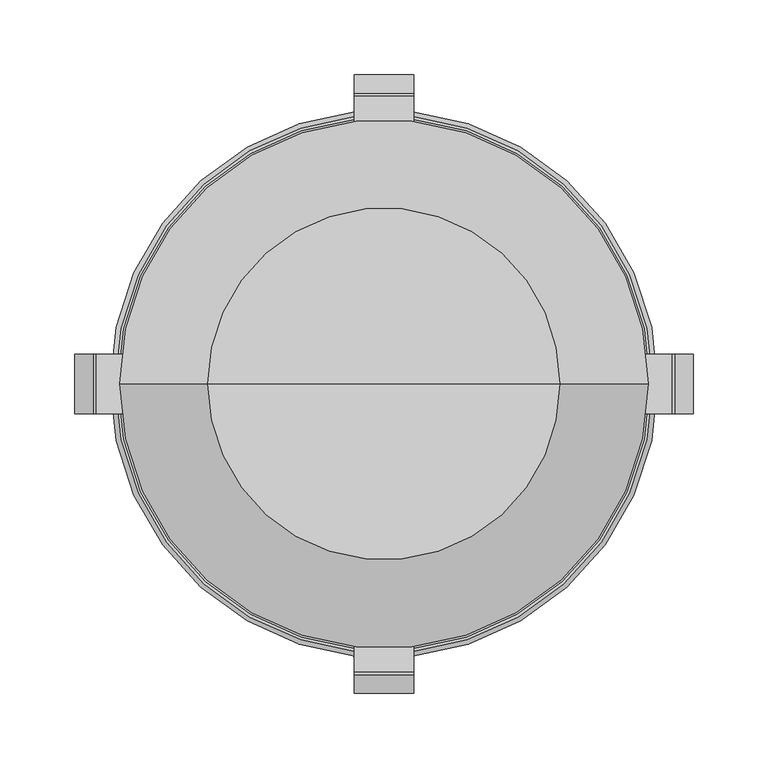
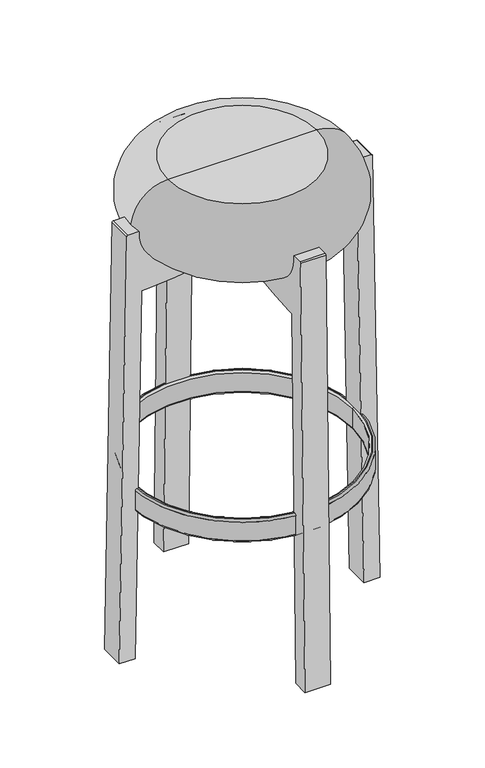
"""IFC4 building model written with IfcOpenShell, lengths in millimetres: furniture geometry, Fredericia - Pioneer Bar Stool High - 6831 : Fredericia - Pioneer Bar Stool High - 6831."""

from ifc_helpers import new_model, si_unit, point, frame, frame_2d, origin, origin_with_axes, place, context, project, spatial, polyline, circle_curve, ellipse_curve, trimmed, segment, composite_curve, outline, extrude, source, transform, mapped, element, save
from ifc_brep_helpers import plane_surface, cylinder_surface, revolved_surface, advanced_brep


def furniture_f48b6f14(model_context):
    return source(origin(), model_context, "Body", "SolidModel", [
        advanced_brep(
        [(175.4348457, 0.0, 249.9868025), (-175.4348457, 0.0, 249.9868025), (-175.4348457, 0.0, 280.9868025), (175.4348457, 0.0, 280.9868025), (178.4348457, 0.0, 246.9868025), (-178.4348457, 0.0, 246.9868025), (183.4908155, 0.0, 249.9362251), (-183.4908155, 0.0, 249.9362251), (-180.5413929, 0.0, 246.9868025), (180.5413929, 0.0, 246.9868025), (183.4908155, 0.0, 280.9925155), (-183.4908155, 0.0, 280.9925155), (180.4965285, 0.0, 283.9868025), (-180.4965285, 0.0, 283.9868025), (-178.4348457, 0.0, 283.9868025), (178.4348457, 0.0, 283.9868025)],
        [
            (0, 1, circle_curve(frame((0.0, 0.0, 249.9868025), z_axis=(0.0, 0.0, -1.0), x_axis=(-1.0, 0.0, 0.0)), 175.4348457)),
            (1, 2),
            (2, 3, circle_curve(frame((0.0, 0.0, 280.9868025), z_axis=(0.0, 0.0, 1.0), x_axis=(-1.0, 0.0, 0.0)), 175.4348457)),
            (3, 0),
            (4, 5, circle_curve(frame((0.0, 0.0, 246.9868025), z_axis=(0.0, 0.0, -1.0), x_axis=(-1.0, 0.0, 0.0)), 178.4348457)),
            (5, 1, circle_curve(frame((-178.4348457, 0.0, 249.9868025), z_axis=(0.0, -1.0, 0.0), x_axis=(1.0, 0.0, 0.0)), 3.0)),
            (0, 4, circle_curve(frame((178.4348457, 0.0, 249.9868025), z_axis=(0.0, -1.0, 0.0), x_axis=(-1.0, 0.0, 0.0)), 3.0)),
            (6, 7, circle_curve(frame((0.0, 0.0, 249.9362251), z_axis=(0.0, 0.0, -1.0), x_axis=(-1.0, 0.0, 0.0)), 183.4908155)),
            (7, 8, circle_curve(frame((-180.5413929, 0.0, 249.9362251), z_axis=(0.0, -1.0, 0.0), x_axis=(1.0, 0.0, 0.0)), 2.9494226)),
            (8, 9, circle_curve(frame((0.0, 0.0, 246.9868025), z_axis=(0.0, 0.0, 1.0), x_axis=(-1.0, 0.0, 0.0)), 180.5413929)),
            (9, 6, circle_curve(frame((180.5413929, 0.0, 249.9362251), z_axis=(0.0, -1.0, 0.0), x_axis=(-1.0, 0.0, 0.0)), 2.9494226)),
            (10, 11, circle_curve(frame((0.0, 0.0, 280.9925155), z_axis=(0.0, 0.0, -1.0), x_axis=(-1.0, 0.0, 0.0)), 183.4908155)),
            (11, 7),
            (6, 10),
            (12, 13, circle_curve(frame((0.0, 0.0, 283.9868025), z_axis=(0.0, 0.0, -1.0), x_axis=(-1.0, 0.0, 0.0)), 180.4965285)),
            (13, 11, circle_curve(frame((-180.4965285, 0.0, 280.9925155), z_axis=(0.0, -1.0, 0.0), x_axis=(1.0, 0.0, 0.0)), 2.994287)),
            (10, 12, circle_curve(frame((180.4965285, 0.0, 280.9925155), z_axis=(0.0, -1.0, 0.0), x_axis=(-1.0, 0.0, 0.0)), 2.994287)),
            (2, 14, circle_curve(frame((-178.4348457, 0.0, 280.9868025), z_axis=(0.0, -1.0, 0.0), x_axis=(1.0, 0.0, 0.0)), 3.0)),
            (14, 15, circle_curve(frame((0.0, 0.0, 283.9868025), z_axis=(0.0, 0.0, 1.0), x_axis=(-1.0, 0.0, 0.0)), 178.4348457)),
            (15, 3, circle_curve(frame((178.4348457, 0.0, 280.9868025), z_axis=(0.0, -1.0, 0.0), x_axis=(-1.0, 0.0, 0.0)), 3.0)),
            (1, 0, circle_curve(frame((0.0, 0.0, 249.9868025), z_axis=(0.0, 0.0, -1.0), x_axis=(1.0, 0.0, 0.0)), 175.4348457)),
            (3, 2, circle_curve(frame((0.0, 0.0, 280.9868025), z_axis=(0.0, 0.0, 1.0), x_axis=(1.0, 0.0, 0.0)), 175.4348457)),
            (5, 4, circle_curve(frame((0.0, 0.0, 246.9868025), z_axis=(0.0, 0.0, -1.0), x_axis=(1.0, 0.0, 0.0)), 178.4348457)),
            (8, 9, circle_curve(frame((0.0, 0.0, 246.9868025), z_axis=(0.0, 0.0, -1.0), x_axis=(1.0, 0.0, 0.0)), 180.5413929)),
            (7, 6, circle_curve(frame((0.0, 0.0, 249.9362251), z_axis=(0.0, 0.0, -1.0), x_axis=(1.0, 0.0, 0.0)), 183.4908155)),
            (11, 10, circle_curve(frame((0.0, 0.0, 280.9925155), z_axis=(0.0, 0.0, -1.0), x_axis=(1.0, 0.0, 0.0)), 183.4908155)),
            (13, 12, circle_curve(frame((0.0, 0.0, 283.9868025), z_axis=(0.0, 0.0, -1.0), x_axis=(1.0, 0.0, 0.0)), 180.4965285)),
            (14, 15, circle_curve(frame((0.0, 0.0, 283.9868025), z_axis=(0.0, 0.0, -1.0), x_axis=(1.0, 0.0, 0.0)), 178.4348457)),
        ],
        [
            revolved_surface(polyline([(-175.4348457, 0.0, 280.9868025), (-175.4348457, 0.0, 249.9868025)]), (0.0, 0.0, 0.0), (0.0, 0.0, 1.0)),
            revolved_surface(trimmed(ellipse_curve(frame((-178.4348457, 0.0, 249.9868025), z_axis=(0.0, 1.0, 0.0), x_axis=(1.0, 0.0, 0.0)), 3.0, 3.0), [point((-175.4348457, 0.0, 249.9868025))], [point((-178.4348457, 0.0, 246.9868025))], True, "CARTESIAN"), (0.0, 0.0, 0.0), (0.0, 0.0, 1.0)),
            revolved_surface(trimmed(ellipse_curve(frame((-180.5413929, 0.0, 249.9362251), z_axis=(0.0, 1.0, 0.0), x_axis=(1.0, 0.0, 0.0)), 2.9494226, 2.9494226), [point((-180.5413929, 0.0, 246.9868025))], [point((-183.4908155, 0.0, 249.9362251))], True, "CARTESIAN"), (0.0, 0.0, 0.0), (0.0, 0.0, 1.0)),
            cylinder_surface(frame((0.0, 0.0, 0.0), z_axis=(0.0, 0.0, 1.0), x_axis=(-1.0, 0.0, 0.0)), 183.4908155),
            revolved_surface(trimmed(ellipse_curve(frame((-180.4965285, 0.0, 280.9925155), z_axis=(0.0, 1.0, 0.0), x_axis=(1.0, 0.0, 0.0)), 2.994287, 2.994287), [point((-183.4908155, 0.0, 280.9925155))], [point((-180.4965285, 0.0, 283.9868025))], True, "CARTESIAN"), (0.0, 0.0, 0.0), (0.0, 0.0, 1.0)),
            revolved_surface(trimmed(ellipse_curve(frame((-178.4348457, 0.0, 280.9868025), z_axis=(0.0, 1.0, 0.0), x_axis=(1.0, 0.0, 0.0)), 3.0, 3.0), [point((-178.4348457, 0.0, 283.9868025))], [point((-175.4348457, 0.0, 280.9868025))], True, "CARTESIAN"), (0.0, 0.0, 0.0), (0.0, 0.0, 1.0)),
            revolved_surface(polyline([(175.4348457, 0.0, 280.9868025), (175.4348457, 0.0, 249.9868025)]), (0.0, 0.0, 0.0), (0.0, 0.0, 1.0)),
            revolved_surface(trimmed(ellipse_curve(frame((178.4348457, 0.0, 249.9868025), z_axis=(0.0, -1.0, 0.0), x_axis=(-1.0, 0.0, 0.0)), 3.0, 3.0), [point((175.4348457, 0.0, 249.9868025))], [point((178.4348457, 0.0, 246.9868025))], True, "CARTESIAN"), (0.0, 0.0, 0.0), (0.0, 0.0, 1.0)),
            plane_surface(frame((0.0, 0.0, 246.9868025), z_axis=(0.0, 0.0, -1.0), x_axis=(1.0, 0.0, 0.0))),
            revolved_surface(trimmed(ellipse_curve(frame((180.5413929, 0.0, 249.9362251), z_axis=(0.0, -1.0, 0.0), x_axis=(-1.0, 0.0, 0.0)), 2.9494226, 2.9494226), [point((180.5413929, 0.0, 246.9868025))], [point((183.4908155, 0.0, 249.9362251))], True, "CARTESIAN"), (0.0, 0.0, 0.0), (0.0, 0.0, 1.0)),
            cylinder_surface(origin_with_axes(), 183.4908155),
            revolved_surface(trimmed(ellipse_curve(frame((180.4965285, 0.0, 280.9925155), z_axis=(0.0, -1.0, 0.0), x_axis=(-1.0, 0.0, 0.0)), 2.994287, 2.994287), [point((183.4908155, 0.0, 280.9925155))], [point((180.4965285, 0.0, 283.9868025))], True, "CARTESIAN"), (0.0, 0.0, 0.0), (0.0, 0.0, 1.0)),
            plane_surface(frame((0.0, 0.0, 283.9868025), z_axis=(0.0, 0.0, 1.0), x_axis=(1.0, 0.0, 0.0))),
            revolved_surface(trimmed(ellipse_curve(frame((178.4348457, 0.0, 280.9868025), z_axis=(0.0, -1.0, 0.0), x_axis=(-1.0, 0.0, 0.0)), 3.0, 3.0), [point((178.4348457, 0.0, 283.9868025))], [point((175.4348457, 0.0, 280.9868025))], True, "CARTESIAN"), (0.0, 0.0, 0.0), (0.0, 0.0, 1.0)),
        ],
        [
            (0, [[1, 2, 3, 4]]),
            (1, [[5, 6, -1, 7]]),
            (2, [[8, 9, 10, 11]]),
            (3, [[12, 13, -8, 14]]),
            (4, [[15, 16, -12, 17]]),
            (5, [[-3, 18, 19, 20]]),
            (6, [[21, -4, 22, -2]]),
            (7, [[23, -7, -21, -6]]),
            (8, [[24, -10], [-23, -5]]),
            (9, [[25, -11, -24, -9]]),
            (10, [[26, -14, -25, -13]]),
            (11, [[27, -17, -26, -16]]),
            (12, [[-27, -15], [28, -19]]),
            (13, [[-22, -20, -28, -18]]),
        ],
    ),
        advanced_brep(
        [(0.0, 0.0, 770.0), (117.9870051, 0.0, 770.0), (-117.9870051, 0.0, 770.0), (-117.9870051, 0.0, 650.9896967), (117.9870051, 0.0, 650.9896967), (0.0, 0.0, 650.9896967)],
        [
            (0, 1),
            (1, 2, circle_curve(frame((0.0, 0.0, 770.0), z_axis=(0.0, 0.0, 1.0), x_axis=(1.0, 0.0, 0.0)), 117.9870051)),
            (2, 0),
            (2, 1, circle_curve(frame((0.0, 0.0, 770.0), z_axis=(0.0, 0.0, 1.0), x_axis=(1.0, 0.0, 0.0)), 117.9870051)),
            (3, 4, circle_curve(frame((0.0, 0.0, 650.9896967), z_axis=(0.0, 0.0, -1.0), x_axis=(1.0, 0.0, 0.0)), 117.9870051)),
            (4, 5),
            (5, 3),
            (4, 3, circle_curve(frame((0.0, 0.0, 650.9896967), z_axis=(0.0, 0.0, -1.0), x_axis=(1.0, 0.0, 0.0)), 117.9870051)),
            (1, 4, circle_curve(frame((117.9870051, 0.0, 710.4948483), z_axis=(0.0, 1.0, 0.0), x_axis=(1.0, 0.0, 0.0)), 59.5051517)),
            (3, 2, circle_curve(frame((-117.9870051, 0.0, 710.4948483), z_axis=(0.0, 1.0, 0.0), x_axis=(-1.0, 0.0, 0.0)), 59.5051517)),
        ],
        [
            plane_surface(frame((0.0, 0.0, 770.0), z_axis=(0.0, 0.0, 1.0), x_axis=(1.0, 0.0, 0.0))),
            plane_surface(frame((0.0, 0.0, 650.9896967), z_axis=(0.0, 0.0, -1.0), x_axis=(1.0, 0.0, 0.0))),
            revolved_surface(trimmed(ellipse_curve(frame((117.9870051, 0.0, 710.4948483), z_axis=(0.0, -1.0, 0.0), x_axis=(1.0, 0.0, 0.0)), 59.5051517, 59.5051517), [point((117.9870051, 0.0, 650.9896967))], [point((117.9870051, 0.0, 770.0))], True, "CARTESIAN"), (0.0, 0.0, 809.4896967), (0.0, 0.0, 1.0)),
        ],
        [
            (0, [[1, 2, 3]]),
            (0, [[-3, 4, -1]]),
            (1, [[5, 6, 7]]),
            (1, [[8, -7, -6]]),
            (2, [[-2, 9, -5, 10]]),
            (2, [[-4, -10, -8, -9]]),
        ],
    ),
        extrude(outline(composite_curve([segment(polyline([(714.4896967, 193.0289245), (714.4896967, 174.9912725), (713.5758804, 175.0072232)]), True, "CONTINUOUS"), segment(trimmed(circle_curve(frame_2d((712.553796, 116.4520435)), 58.5640993), [point((713.5758804, 175.0072232))], [point((653.9896967, 116.4520435))], True, "CARTESIAN"), True, "CONTINUOUS"), segment(polyline([(653.9896967, 116.4520435), (653.9896967, 20.0), (640.9896967, 20.0), (640.9896967, 0.0), (640.9896967, -20.0), (653.9896967, -20.0), (653.9896967, -116.4520435)]), True, "CONTINUOUS"), segment(trimmed(circle_curve(frame_2d((712.553796, -116.4520435)), 58.5640993), [point((653.9896967, -116.4520435))], [point((713.5758804, -175.0072232))], True, "CARTESIAN"), True, "CONTINUOUS"), segment(polyline([(713.5758804, -175.0072232), (714.4896967, -174.9912725), (714.4896967, -193.0289245)]), True, "CONTINUOUS"), segment(trimmed(circle_curve(frame_2d((712.4896967, -193.0289245)), 2.0), [point((714.4896967, -193.0289245))], [point((712.5246015, -195.0286199))], False, "CARTESIAN"), True, "CONTINUOUS"), segment(polyline([(712.5246015, -195.0286199), (0.0, -207.4657831), (0.0, -181.8771157), (613.7396967, -171.1642495), (613.7396967, -162.8043593)]), True, "CONTINUOUS"), segment(trimmed(circle_curve(frame_2d((900.087552, -162.8043593)), 286.3478554), [point((613.7396967, -162.8043593))], [point((617.265114, -118.0096857))], False, "CARTESIAN"), True, "CONTINUOUS"), segment(polyline([(617.265114, -118.0096857), (620.5031496, -97.5655332)]), True, "CONTINUOUS"), segment(trimmed(circle_curve(frame_2d((340.7990259, -53.2647521)), 283.1906708), [point((620.5031496, -97.5655332))], [point((623.9896967, -53.2647521))], True, "CARTESIAN"), True, "CONTINUOUS"), segment(polyline([(623.9896967, -53.2647521), (623.9896967, 1.9722781), (623.9896967, 53.2647521)]), True, "CONTINUOUS"), segment(trimmed(circle_curve(frame_2d((340.7990259, 53.2647521)), 283.1906708), [point((623.9896967, 53.2647521))], [point((620.5031496, 97.5655332))], True, "CARTESIAN"), True, "CONTINUOUS"), segment(polyline([(620.5031496, 97.5655332), (617.265114, 118.0096857)]), True, "CONTINUOUS"), segment(trimmed(circle_curve(frame_2d((900.087552, 162.8043593)), 286.3478554), [point((617.265114, 118.0096857))], [point((613.7396967, 162.8043593))], False, "CARTESIAN"), True, "CONTINUOUS"), segment(polyline([(613.7396967, 162.8043593), (613.7396967, 171.1642495), (0.0, 181.8771157), (0.0, 207.4657831), (712.5246015, 195.0286199)]), True, "CONTINUOUS"), segment(trimmed(circle_curve(frame_2d((712.4896967, 193.0289245)), 2.0), [point((712.5246015, 195.0286199))], [point((714.4896967, 193.0289245))], False, "CARTESIAN"), True, "CONTINUOUS")], self_intersect=False)), frame((0.0, -20.0, 0.0), z_axis=(0.0, 1.0, 0.0), x_axis=(0.0, 0.0, 1.0)), (0.0, 0.0, 1.0), 40.0),
        extrude(outline(composite_curve([segment(trimmed(circle_curve(frame_2d((193.0289245, 712.4896967)), 2.0), [point((193.0289245, 714.4896967))], [point((195.0286199, 712.5246015))], False, "CARTESIAN"), True, "CONTINUOUS"), segment(polyline([(195.0286199, 712.5246015), (207.4657831, 0.0), (181.8771157, 0.0), (171.1642495, 613.7396967), (162.8043593, 613.7396967)]), True, "CONTINUOUS"), segment(trimmed(circle_curve(frame_2d((162.8043593, 900.087552)), 286.3478554), [point((162.8043593, 613.7396967))], [point((118.0096857, 617.265114))], False, "CARTESIAN"), True, "CONTINUOUS"), segment(polyline([(118.0096857, 617.265114), (97.5655332, 620.5031496)]), True, "CONTINUOUS"), segment(trimmed(circle_curve(frame_2d((53.2647521, 340.7990259)), 283.1906708), [point((97.5655332, 620.5031496))], [point((53.2647521, 623.9896967))], True, "CARTESIAN"), True, "CONTINUOUS"), segment(polyline([(53.2647521, 623.9896967), (20.0, 623.9896967), (20.0, 640.9896967), (0.0, 640.9896967), (-20.0, 640.9896967), (-20.0, 623.9896967), (-53.2647521, 623.9896967)]), True, "CONTINUOUS"), segment(trimmed(circle_curve(frame_2d((-53.2647521, 340.7990259)), 283.1906708), [point((-53.2647521, 623.9896967))], [point((-97.5655332, 620.5031496))], True, "CARTESIAN"), True, "CONTINUOUS"), segment(polyline([(-97.5655332, 620.5031496), (-118.0096857, 617.265114)]), True, "CONTINUOUS"), segment(trimmed(circle_curve(frame_2d((-162.8043593, 900.087552)), 286.3478554), [point((-118.0096857, 617.265114))], [point((-162.8043593, 613.7396967))], False, "CARTESIAN"), True, "CONTINUOUS"), segment(polyline([(-162.8043593, 613.7396967), (-171.1642495, 613.7396967), (-181.8771157, 0.0), (-207.4657831, 0.0), (-195.0286199, 712.5246015)]), True, "CONTINUOUS"), segment(trimmed(circle_curve(frame_2d((-193.0289245, 712.4896967)), 2.0), [point((-195.0286199, 712.5246015))], [point((-193.0289245, 714.4896967))], False, "CARTESIAN"), True, "CONTINUOUS"), segment(polyline([(-193.0289245, 714.4896967), (-174.9912725, 714.4896967), (-175.0072232, 713.5758804)]), True, "CONTINUOUS"), segment(trimmed(circle_curve(frame_2d((-116.4520435, 712.553796)), 58.5640993), [point((-175.0072232, 713.5758804))], [point((-116.4520435, 653.9896967))], True, "CARTESIAN"), True, "CONTINUOUS"), segment(polyline([(-116.4520435, 653.9896967), (0.0, 653.9896967), (116.4520435, 653.9896967)]), True, "CONTINUOUS"), segment(trimmed(circle_curve(frame_2d((116.4520435, 712.553796)), 58.5640993), [point((116.4520435, 653.9896967))], [point((175.0072232, 713.5758804))], True, "CARTESIAN"), True, "CONTINUOUS"), segment(polyline([(175.0072232, 713.5758804), (174.9912725, 714.4896967), (193.0289245, 714.4896967)]), True, "CONTINUOUS")], self_intersect=False)), frame((-20.0, 0.0, 0.0), z_axis=(1.0, 0.0, 0.0), x_axis=(0.0, 1.0, 0.0)), (0.0, 0.0, 1.0), 40.0),
    ])


if __name__ == "__main__":
    model = new_model("IFC4")
    model_context = context("Model", 3, world=origin())
    ifc_project = project(units=[si_unit("LENGTHUNIT", "METRE", prefix="MILLI")], contexts=[model_context])
    site = spatial("IfcSite", under=ifc_project)
    building = spatial("IfcBuilding", under=site)
    placement = place(None, origin())
    furniture_shape = furniture_f48b6f14(model_context)
    element("IfcFurniture", 1, ObjectType="Fredericia - Pioneer Bar Stool High - 6831 : Fredericia - Pioneer Bar Stool High - 6831", at=placement, inside=building, context=model_context, shape_type="MappedRepresentation", body=[
        mapped(furniture_shape, transform((0.0, 0.0, 0.0), x_axis=(1.0, 0.0, 0.0), y_axis=(0.0, 1.0, 0.0), z_axis=(0.0, 0.0, 1.0))),
    ])
    save(model, "model.ifc")
